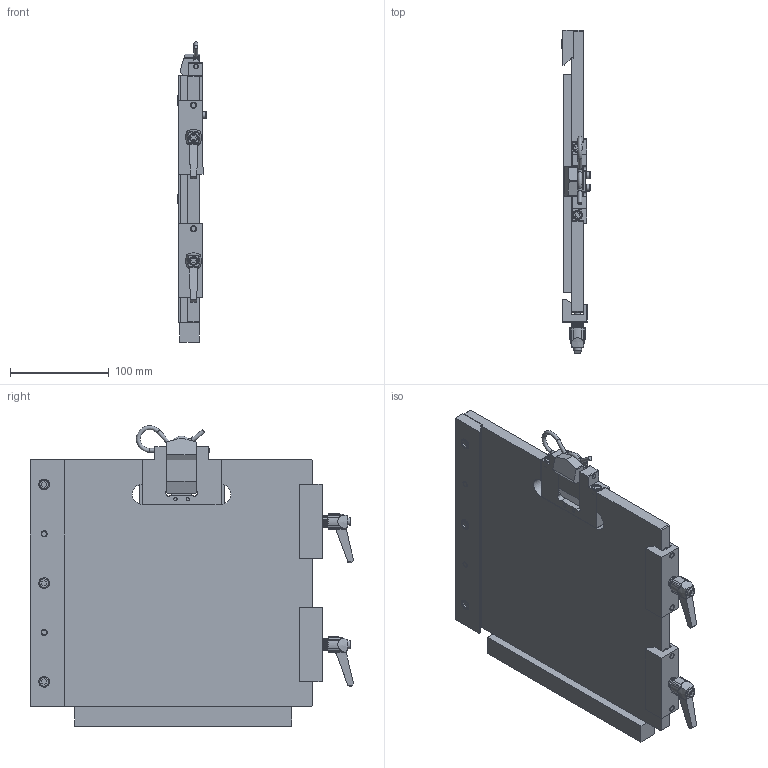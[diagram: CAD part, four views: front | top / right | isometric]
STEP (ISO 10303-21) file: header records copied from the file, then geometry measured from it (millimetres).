
FILE_DESCRIPTION(('STEP AP203'),'1');
FILE_NAME('CA.SWM3S.stp','2020-02-14T09:19:50',(' '),(' '),'Spatial InterOp 3D',' ',' ');
FILE_SCHEMA(('CONFIG_CONTROL_DESIGN'));
Length unit declared in the file: millimetre
Products named in the file (22): CA.SWM3S; EL.GN.70936; R.6.SCH; PAP.060810; MAN.M6x20; M.DIM.11230; SP.6x30; SWM3.4S; R.4.SCH; SWM3.2S; SWM3.3S; V.TCE6x14; SWM3.1.1S; SWM3.5; SWM3.6; SWM3.7; V.TCE4x14; R.5.SCH; V.TCE6x25; V.TCE5x50; SP.6X50; SP.6x20
Assembly tree (50 placements, depth 2):
  CA.SWM3S
    EL.GN.70936
    R.6.SCH  x7
    PAP.060810  x4
    MAN.M6x20  x2
    M.DIM.11230  x4
    SP.6x30  x6
    SWM3.4S  x2
    R.4.SCH  x2
    SWM3.2S
    SWM3.3S
    V.TCE6x14  x3
    SWM3.1.1S
    SWM3.5
    SWM3.6
    SWM3.7
    V.TCE4x14  x2
    R.5.SCH  x2
    V.TCE6x25  x4
    V.TCE5x50  x2
    SP.6X50
    SP.6x20  x2
Bounding box: 29.1 x 327.7 x 304.48 mm (x, y, z)
Volume: 1097903.2 mm3; surface area: 270880.9 mm2
Topology: 47 solids, 51 shells, 2949 faces, 8421 edges, 5593 vertices
Faces by surface type: plane 2544, cylinder 272, cone 95, torus 34, bspline 4
Full cylindrical faces by diameter (mm): 3.3 x2, 4 x7, 4.2 x6, 4.3 x2, 4.5 x1, 4.8 x2, 5 x13, 5.2 x4, 5.3 x2, 5.5 x3, 5.8 x2, 6 x27, 6.02 x4, 6.05 x6, 6.2 x20, 7 x4, 7.5 x2, 8 x10, 8.5 x2, 8.889 x2, 9 x9, 10 x11, 11 x7, 12 x2
Entity records: 37549 total; most frequent: CARTESIAN_POINT 8004, DIRECTION 5835, ORIENTED_EDGE 5544, EDGE_CURVE 2772, AXIS2_PLACEMENT_3D 2042, VERTEX_POINT 1929, LINE 1751, VECTOR 1751
